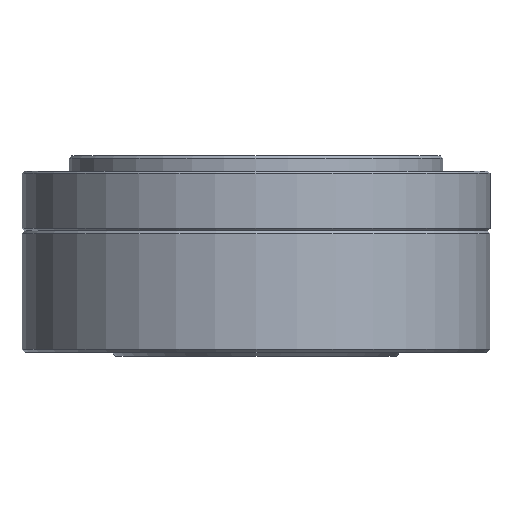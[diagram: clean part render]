
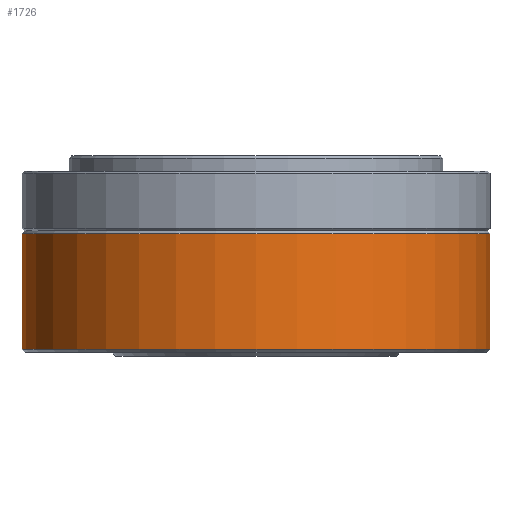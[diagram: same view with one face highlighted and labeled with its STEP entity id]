
A CAD part, front view. The second image highlights one B-rep face of the part: STEP entity #1726.
In plain terms, the highlighted cylindrical face has radius 31 mm (diameter 62 mm), a full revolution.
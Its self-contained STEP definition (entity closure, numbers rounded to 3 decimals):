
#1509=CYLINDRICAL_SURFACE('',#8288,31.);
#1726=ADVANCED_FACE('',(#2538,#2539),#1509,.T.);
#2538=FACE_BOUND('',#3315,.T.);
#2539=FACE_BOUND('',#3316,.T.);
#3315=EDGE_LOOP('',(#4249));
#3316=EDGE_LOOP('',(#4250));
#4249=ORIENTED_EDGE('',*,*,#6683,.T.);
#4250=ORIENTED_EDGE('',*,*,#6682,.F.);
#5951=VERTEX_POINT('',#12168);
#5952=VERTEX_POINT('',#12171);
#6682=EDGE_CURVE('',#5951,#5951,#7568,.T.);
#6683=EDGE_CURVE('',#5952,#5952,#7569,.T.);
#7568=CIRCLE('',#8285,31.);
#7569=CIRCLE('',#8287,31.);
#8285=AXIS2_PLACEMENT_3D('',#12167,#9690,#9691);
#8287=AXIS2_PLACEMENT_3D('',#12170,#9694,#9695);
#8288=AXIS2_PLACEMENT_3D('',#12172,#9696,#9697);
#9690=DIRECTION('',(0.,0.,-1.));
#9691=DIRECTION('',(-1.,0.,0.));
#9694=DIRECTION('',(0.,0.,-1.));
#9695=DIRECTION('',(-1.,0.,0.));
#9696=DIRECTION('',(0.,0.,-1.));
#9697=DIRECTION('',(-1.,0.,0.));
#12167=CARTESIAN_POINT('',(0.,0.,0.9));
#12168=CARTESIAN_POINT('',(-31.,0.,0.9));
#12170=CARTESIAN_POINT('',(0.,0.,16.2));
#12171=CARTESIAN_POINT('',(-31.,0.,16.2));
#12172=CARTESIAN_POINT('',(0.,0.,0.));
